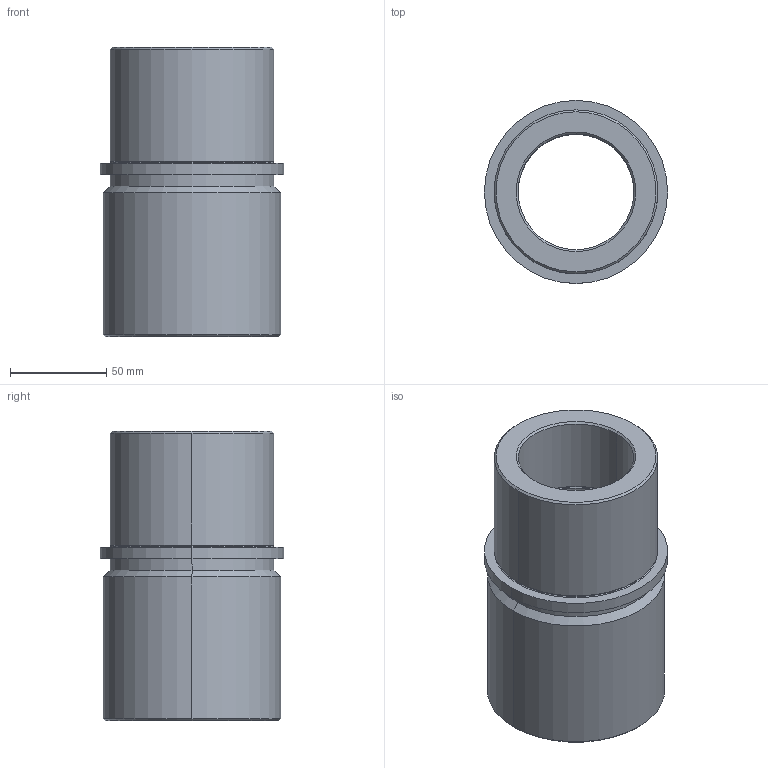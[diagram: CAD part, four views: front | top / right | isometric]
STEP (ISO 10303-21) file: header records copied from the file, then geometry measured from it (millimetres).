
FILE_DESCRIPTION (( 'STEP AP214' ), '1' );
FILE_NAME ('Casquillo SB500-60-150 b.STEP', '2019-01-10T13:37:42', ( '' ), ( '' ), 'SwSTEP 2.0', 'SolidWorks 2018', '' );
FILE_SCHEMA (( 'AUTOMOTIVE_DESIGN' ));
Length unit declared in the file: millimetre
Products named in the file (1): Casquillo SB500-60-150 b
Bounding box: 95 x 95 x 150 mm (x, y, z)
Volume: 509108.1 mm3; surface area: 79914.2 mm2
Topology: 1 solids, 1 shells, 40 faces, 80 edges, 44 vertices
Faces by surface type: cylinder 14, torus 12, cone 10, plane 4
Entity records: 1074 total; most frequent: DIRECTION 218, CARTESIAN_POINT 165, ORIENTED_EDGE 160, AXIS2_PLACEMENT_3D 97, EDGE_CURVE 80, CIRCLE 56, EDGE_LOOP 44, VERTEX_POINT 44
